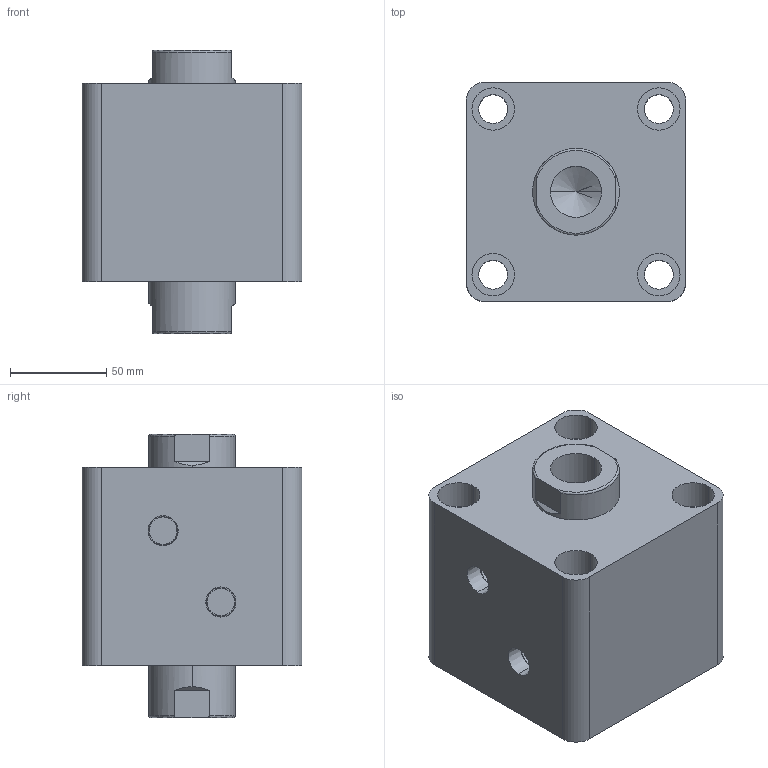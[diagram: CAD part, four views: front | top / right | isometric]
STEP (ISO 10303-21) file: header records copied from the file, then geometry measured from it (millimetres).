
FILE_DESCRIPTION (( 'STEP AP203' ), '1' );
FILE_NAME ('HTB-SW80-10N.STEP', '2019-10-07T10:18:59', ( '微软用户' ), ( '微软中国' ), 'SwSTEP 2.0', 'SolidWorks 2012', '' );
FILE_SCHEMA (( 'CONFIG_CONTROL_DESIGN' ));
Length unit declared in the file: millimetre
Products named in the file (3): HTB-SW80-10N; HTB-SW80-10N活塞杆; HTB-SW80-10掛极
Assembly tree (2 placements, depth 2):
  HTB-SW80-10N
    HTB-SW80-10掛极
    HTB-SW80-10N活塞杆
Bounding box: 114 x 114 x 147 mm (x, y, z)
Volume: 1232081.6 mm3; surface area: 153938.4 mm2
Topology: 2 solids, 2 shells, 100 faces, 228 edges, 146 vertices
Faces by surface type: cylinder 48, plane 32, torus 12, cone 8
Entity records: 3237 total; most frequent: CARTESIAN_POINT 595, DIRECTION 542, ORIENTED_EDGE 448, AXIS2_PLACEMENT_3D 229, EDGE_CURVE 224, VERTEX_POINT 146, EDGE_LOOP 128, CIRCLE 124
